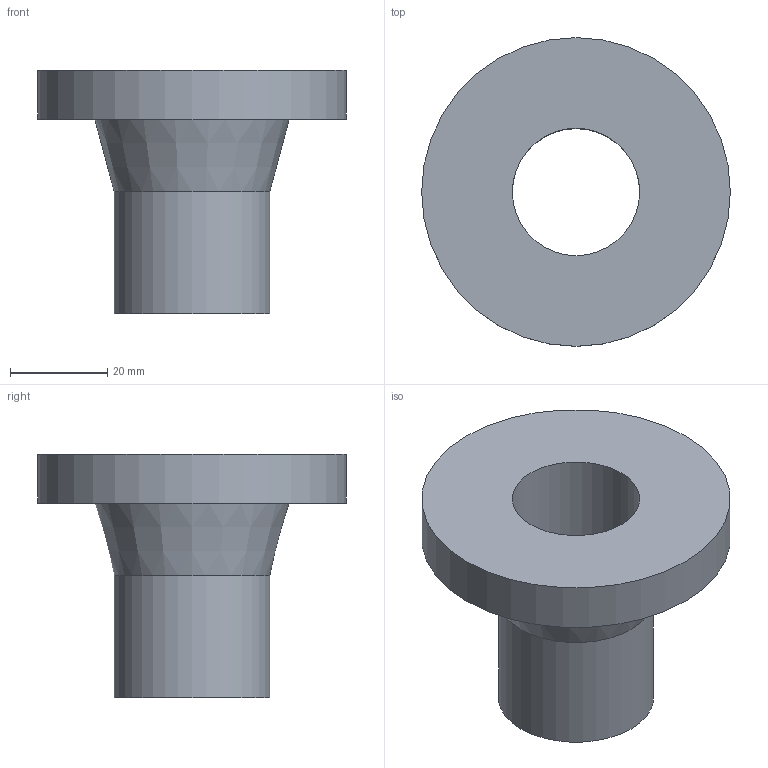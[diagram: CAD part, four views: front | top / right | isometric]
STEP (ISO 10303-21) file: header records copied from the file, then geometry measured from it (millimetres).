
FILE_DESCRIPTION (( 'STEP AP203' ), '1' );
FILE_NAME ('581135010.STEP', '2015-12-04T19:47:13', ( '' ), ( '' ), 'SwSTEP 2.0', 'SolidWorks 2015', '' );
FILE_SCHEMA (( 'CONFIG_CONTROL_DESIGN' ));
Length unit declared in the file: inch
Products named in the file (1): 581135010
Bounding box: 63.5 x 63.5 x 50 mm (x, y, z)
Volume: 40134.3 mm3; surface area: 15182 mm2
Topology: 1 solids, 1 shells, 7 faces, 11 edges, 7 vertices
Faces by surface type: cylinder 3, plane 3, cone 1
Full cylindrical faces by diameter (mm): 26.2 x1, 32 x1, 63.5 x1
Entity records: 227 total; most frequent: DIRECTION 30, CARTESIAN_POINT 22, AXIS2_PLACEMENT_3D 15, EDGE_LOOP 14, ORIENTED_EDGE 14, FACE_OUTER_BOUND 10, PERSON_AND_ORGANIZATION 8, EDGE_CURVE 7
